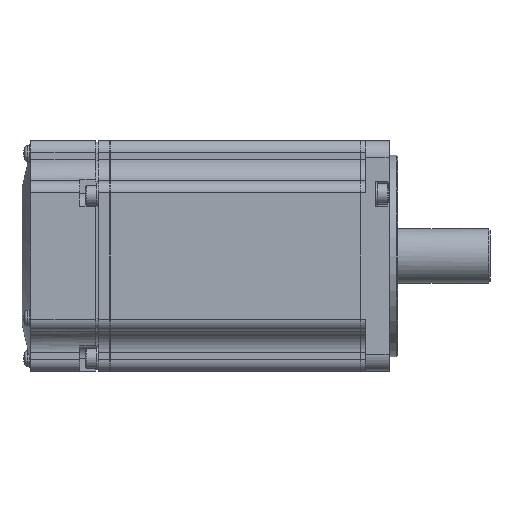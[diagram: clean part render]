
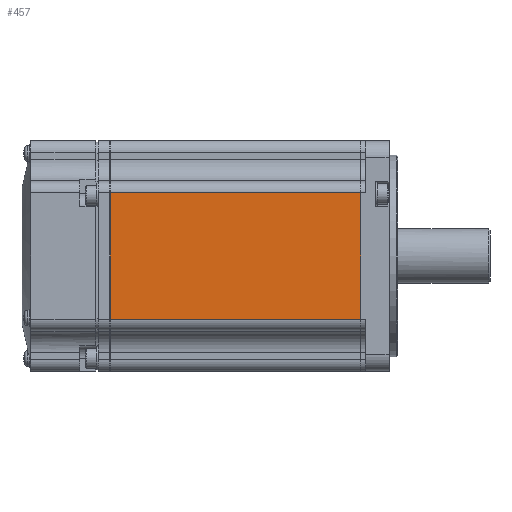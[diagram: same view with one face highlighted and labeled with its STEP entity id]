
A CAD part, front view. The second image highlights one B-rep face of the part: STEP entity #457.
In plain terms, the highlighted planar face has unit normal (0, -1, 0).
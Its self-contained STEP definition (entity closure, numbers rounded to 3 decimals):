
#457 = ADVANCED_FACE( '', ( #1397 ), #1398, .F. );
#1397 = FACE_OUTER_BOUND( '', #3221, .T. );
#1398 = PLANE( '', #3222 );
#3221 = EDGE_LOOP( '', ( #5780, #5781, #5782, #5783 ) );
#3222 = AXIS2_PLACEMENT_3D( '', #5784, #5785, #5786 );
#5780 = ORIENTED_EDGE( '', *, *, #11509, .F. );
#5781 = ORIENTED_EDGE( '', *, *, #11619, .T. );
#5782 = ORIENTED_EDGE( '', *, *, #11501, .T. );
#5783 = ORIENTED_EDGE( '', *, *, #11620, .F. );
#5784 = CARTESIAN_POINT( '', ( 8., -40., 34. ) );
#5785 = DIRECTION( '', ( 0., 1., 0. ) );
#5786 = DIRECTION( '', ( 0., 0., 1. ) );
#11501 = EDGE_CURVE( '', #13630, #13632, #13634, .T. );
#11509 = EDGE_CURVE( '', #13645, #13648, #13649, .T. );
#11619 = EDGE_CURVE( '', #13645, #13630, #13829, .T. );
#11620 = EDGE_CURVE( '', #13648, #13632, #13830, .T. );
#13630 = VERTEX_POINT( '', #17102 );
#13632 = VERTEX_POINT( '', #17104 );
#13634 = LINE( '', #17106, #17107 );
#13645 = VERTEX_POINT( '', #17123 );
#13648 = VERTEX_POINT( '', #17126 );
#13649 = LINE( '', #17127, #17128 );
#13829 = LINE( '', #17383, #17384 );
#13830 = LINE( '', #17385, #17386 );
#17102 = CARTESIAN_POINT( '', ( -88.65, -40., -22. ) );
#17104 = CARTESIAN_POINT( '', ( -1.85, -40., -22. ) );
#17106 = CARTESIAN_POINT( '', ( -116.2, -40., -22. ) );
#17107 = VECTOR( '', #21787, 1000. );
#17123 = CARTESIAN_POINT( '', ( -88.65, -40., 22. ) );
#17126 = CARTESIAN_POINT( '', ( -1.85, -40., 22. ) );
#17127 = CARTESIAN_POINT( '', ( -116.2, -40., 22. ) );
#17128 = VECTOR( '', #21799, 1000. );
#17383 = CARTESIAN_POINT( '', ( -88.65, -40., 34. ) );
#17384 = VECTOR( '', #21977, 1000. );
#17385 = CARTESIAN_POINT( '', ( -1.85, -40., 34. ) );
#17386 = VECTOR( '', #21978, 1000. );
#21787 = DIRECTION( '', ( 1., 0., 0. ) );
#21799 = DIRECTION( '', ( 1., 0., 0. ) );
#21977 = DIRECTION( '', ( 0., 0., -1. ) );
#21978 = DIRECTION( '', ( 0., 0., -1. ) );
